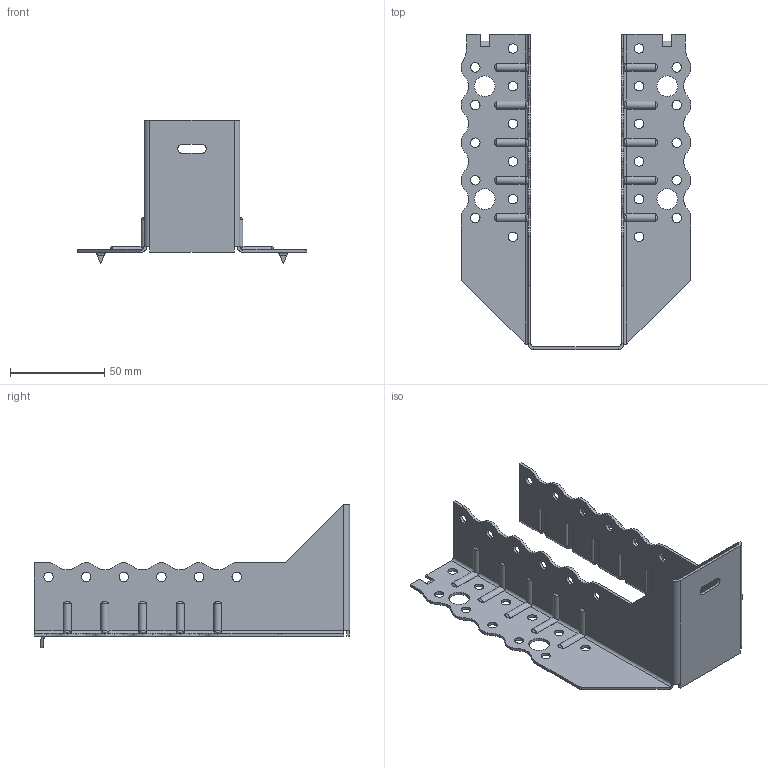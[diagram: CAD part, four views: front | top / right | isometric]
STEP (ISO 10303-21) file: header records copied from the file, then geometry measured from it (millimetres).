
FILE_DESCRIPTION (( 'STEP AP203' ), '1' );
FILE_NAME ('30614TOP.STEP', '2021-04-06T17:50:20', ( '' ), ( '' ), 'SwSTEP 2.0', 'SolidWorks 2013', '' );
FILE_SCHEMA (( 'CONFIG_CONTROL_DESIGN' ));
Length unit declared in the file: millimetre
Products named in the file (1): 30614TOP
Bounding box: 122 x 167.5 x 76 mm (x, y, z)
Volume: 38725.2 mm3; surface area: 55067.9 mm2
Topology: 1 solids, 1 shells, 428 faces, 1154 edges, 728 vertices
Faces by surface type: cylinder 269, plane 119, torus 20, bspline 20
Entity records: 15880 total; most frequent: CARTESIAN_POINT 5007, ORIENTED_EDGE 2308, DIRECTION 2228, EDGE_CURVE 1154, AXIS2_PLACEMENT_3D 813, VERTEX_POINT 728, VECTOR 602, LINE 602
